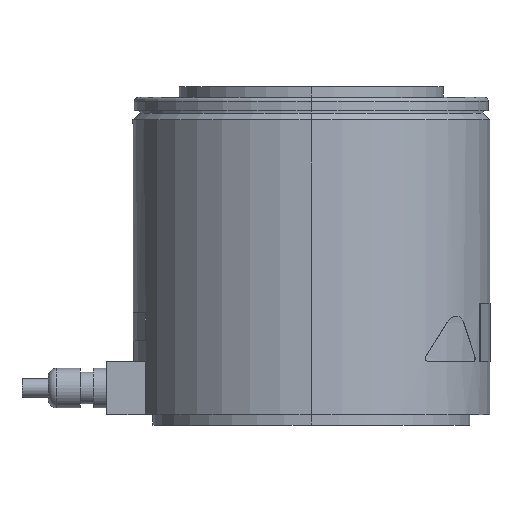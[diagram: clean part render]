
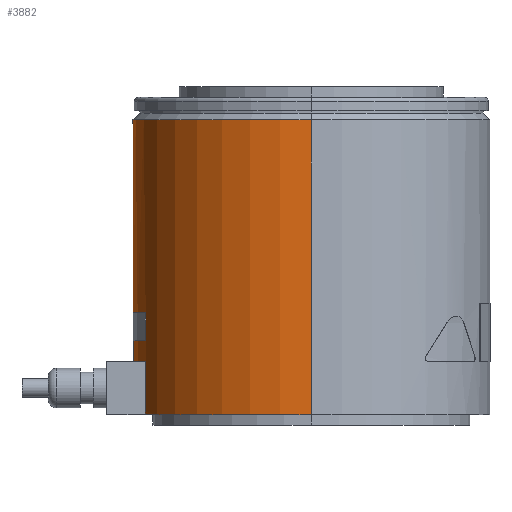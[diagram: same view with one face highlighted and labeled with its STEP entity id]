
A CAD part, left-side view. The second image highlights one B-rep face of the part: STEP entity #3882.
In plain terms, the highlighted cylindrical face has radius 67.5 mm (diameter 135 mm), a partial arc.
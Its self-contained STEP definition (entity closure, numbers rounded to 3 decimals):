
#1055 = VECTOR ( 'NONE', #4395, 1000. ) ;
#1056 = VECTOR ( 'NONE', #4407, 1000. ) ;
#1059 = LINE ( 'NONE', #4388, #1055 ) ;
#1060 = CIRCLE ( 'NONE', #4321, 67.5 ) ;
#1063 = LINE ( 'NONE', #4412, #1066 ) ;
#1066 = VECTOR ( 'NONE', #4413, 1000. ) ;
#1067 = LINE ( 'NONE', #4401, #1056 ) ;
#1068 = CIRCLE ( 'NONE', #4322, 67.5 ) ;
#1069 = LINE ( 'NONE', #4416, #1075 ) ;
#1070 = VECTOR ( 'NONE', #4417, 1000. ) ;
#1071 = CIRCLE ( 'NONE', #4324, 67.5 ) ;
#1072 = LINE ( 'NONE', #4418, #1076 ) ;
#1073 = LINE ( 'NONE', #4409, #1070 ) ;
#1074 = CIRCLE ( 'NONE', #4328, 67.5 ) ;
#1075 = VECTOR ( 'NONE', #4420, 1000. ) ;
#1076 = VECTOR ( 'NONE', #1115, 1000. ) ;
#1079 = CIRCLE ( 'NONE', #4326, 67.5 ) ;
#1115 = DIRECTION ( 'NONE',  ( 0., 0., -1. ) ) ;
#1119 = CARTESIAN_POINT ( 'NONE',  ( 0., 0., 4. ) ) ;
#1120 = DIRECTION ( 'NONE',  ( 0., 0., -1. ) ) ;
#1121 = DIRECTION ( 'NONE',  ( -1., 0., 0. ) ) ;
#1621 = FACE_BOUND ( 'NONE', #4709, .T. ) ;
#1625 = CYLINDRICAL_SURFACE ( 'NONE', #2219, 67.5 ) ;
#1629 = FACE_BOUND ( 'NONE', #4708, .T. ) ;
#1631 = FACE_OUTER_BOUND ( 'NONE', #4792, .T. ) ;
#1960 = CARTESIAN_POINT ( 'NONE',  ( 67.5, 0., 115.5 ) ) ;
#1962 = CARTESIAN_POINT ( 'NONE',  ( -67.5, 0., 115.5 ) ) ;
#2219 = AXIS2_PLACEMENT_3D ( 'NONE', #2475, #2478, #2477 ) ;
#2475 = CARTESIAN_POINT ( 'NONE',  ( 0., 0., 0. ) ) ;
#2477 = DIRECTION ( 'NONE',  ( -1., 0., 0. ) ) ;
#2478 = DIRECTION ( 'NONE',  ( 0., 0., -1. ) ) ;
#2757 = EDGE_CURVE ( 'NONE', #4453, #4451, #1060, .T. ) ;
#2758 = EDGE_CURVE ( 'NONE', #4451, #4452, #1059, .T. ) ;
#2762 = EDGE_CURVE ( 'NONE', #4450, #4449, #1068, .T. ) ;
#2763 = EDGE_CURVE ( 'NONE', #4448, #4449, #1067, .T. ) ;
#2764 = EDGE_CURVE ( 'NONE', #4447, #4448, #1071, .T. ) ;
#2765 = EDGE_CURVE ( 'NONE', #4450, #4447, #1063, .T. ) ;
#2766 = EDGE_CURVE ( 'NONE', #4452, #4454, #1074, .T. ) ;
#2767 = EDGE_CURVE ( 'NONE', #4454, #4453, #1073, .T. ) ;
#2768 = EDGE_CURVE ( 'NONE', #3677, #4456, #1069, .T. ) ;
#2769 = EDGE_CURVE ( 'NONE', #3676, #4455, #1072, .T. ) ;
#2771 = EDGE_CURVE ( 'NONE', #4456, #4455, #1079, .T. ) ;
#2949 = CARTESIAN_POINT ( 'NONE',  ( 0., 0., 115.5 ) ) ;
#2951 = DIRECTION ( 'NONE',  ( 0., 0., -1. ) ) ;
#2952 = DIRECTION ( 'NONE',  ( -1., 0., 0. ) ) ;
#3099 = CARTESIAN_POINT ( 'NONE',  ( 25., 62.7, 24. ) ) ;
#3100 = CARTESIAN_POINT ( 'NONE',  ( -25., 62.7, 5. ) ) ;
#3104 = CARTESIAN_POINT ( 'NONE',  ( -25., 62.7, 24. ) ) ;
#3105 = CARTESIAN_POINT ( 'NONE',  ( 25., 62.7, 5. ) ) ;
#3106 = CARTESIAN_POINT ( 'NONE',  ( -25., 62.7, 32. ) ) ;
#3107 = CARTESIAN_POINT ( 'NONE',  ( -25., 62.7, 42.5 ) ) ;
#3108 = CARTESIAN_POINT ( 'NONE',  ( 25., 62.7, 32. ) ) ;
#3109 = CARTESIAN_POINT ( 'NONE',  ( 25., 62.7, 42.5 ) ) ;
#3110 = CARTESIAN_POINT ( 'NONE',  ( 67.5, 0., 4. ) ) ;
#3111 = CARTESIAN_POINT ( 'NONE',  ( -67.5, 0., 4. ) ) ;
#3676 = VERTEX_POINT ( 'NONE', #1960 ) ;
#3677 = VERTEX_POINT ( 'NONE', #1962 ) ;
#3882 = ADVANCED_FACE ( 'NONE', ( #1621, #1629, #1631 ), #1625, .T. ) ;
#4267 = EDGE_CURVE ( 'NONE', #3677, #3676, #6171, .T. ) ;
#4321 = AXIS2_PLACEMENT_3D ( 'NONE', #4391, #4392, #4393 ) ;
#4322 = AXIS2_PLACEMENT_3D ( 'NONE', #4403, #4404, #4405 ) ;
#4324 = AXIS2_PLACEMENT_3D ( 'NONE', #4408, #4410, #4411 ) ;
#4326 = AXIS2_PLACEMENT_3D ( 'NONE', #1119, #1120, #1121 ) ;
#4328 = AXIS2_PLACEMENT_3D ( 'NONE', #4406, #4414, #4415 ) ;
#4388 = CARTESIAN_POINT ( 'NONE',  ( -25., 62.7, 0. ) ) ;
#4391 = CARTESIAN_POINT ( 'NONE',  ( 0., 0., 32. ) ) ;
#4392 = DIRECTION ( 'NONE',  ( 0., 0., 1. ) ) ;
#4393 = DIRECTION ( 'NONE',  ( -1., 0., 0. ) ) ;
#4395 = DIRECTION ( 'NONE',  ( 0., 0., 1. ) ) ;
#4401 = CARTESIAN_POINT ( 'NONE',  ( -25., 62.7, 0. ) ) ;
#4403 = CARTESIAN_POINT ( 'NONE',  ( 0., 0., 5. ) ) ;
#4404 = DIRECTION ( 'NONE',  ( 0., 0., 1. ) ) ;
#4405 = DIRECTION ( 'NONE',  ( -1., 0., 0. ) ) ;
#4406 = CARTESIAN_POINT ( 'NONE',  ( 0., 0., 42.5 ) ) ;
#4407 = DIRECTION ( 'NONE',  ( 0., 0., -1. ) ) ;
#4408 = CARTESIAN_POINT ( 'NONE',  ( 0., 0., 24. ) ) ;
#4409 = CARTESIAN_POINT ( 'NONE',  ( 25., 62.7, 0. ) ) ;
#4410 = DIRECTION ( 'NONE',  ( 0., 0., 1. ) ) ;
#4411 = DIRECTION ( 'NONE',  ( -1., 0., 0. ) ) ;
#4412 = CARTESIAN_POINT ( 'NONE',  ( 25., 62.7, 0. ) ) ;
#4413 = DIRECTION ( 'NONE',  ( 0., 0., 1. ) ) ;
#4414 = DIRECTION ( 'NONE',  ( 0., 0., -1. ) ) ;
#4415 = DIRECTION ( 'NONE',  ( 1., 0., 0. ) ) ;
#4416 = CARTESIAN_POINT ( 'NONE',  ( -67.5, 0., 0. ) ) ;
#4417 = DIRECTION ( 'NONE',  ( 0., 0., -1. ) ) ;
#4418 = CARTESIAN_POINT ( 'NONE',  ( 67.5, 0., 0. ) ) ;
#4420 = DIRECTION ( 'NONE',  ( 0., 0., -1. ) ) ;
#4447 = VERTEX_POINT ( 'NONE', #3099 ) ;
#4448 = VERTEX_POINT ( 'NONE', #3104 ) ;
#4449 = VERTEX_POINT ( 'NONE', #3100 ) ;
#4450 = VERTEX_POINT ( 'NONE', #3105 ) ;
#4451 = VERTEX_POINT ( 'NONE', #3106 ) ;
#4452 = VERTEX_POINT ( 'NONE', #3107 ) ;
#4453 = VERTEX_POINT ( 'NONE', #3108 ) ;
#4454 = VERTEX_POINT ( 'NONE', #3109 ) ;
#4455 = VERTEX_POINT ( 'NONE', #3110 ) ;
#4456 = VERTEX_POINT ( 'NONE', #3111 ) ;
#4708 = EDGE_LOOP ( 'NONE', ( #6822, #6823, #6824, #6825 ) ) ;
#4709 = EDGE_LOOP ( 'NONE', ( #6818, #6819, #6820, #6821 ) ) ;
#4792 = EDGE_LOOP ( 'NONE', ( #6826, #6827, #6728, #6729 ) ) ;
#5851 = AXIS2_PLACEMENT_3D ( 'NONE', #2949, #2951, #2952 ) ;
#6171 = CIRCLE ( 'NONE', #5851, 67.5 ) ;
#6728 = ORIENTED_EDGE ( 'NONE', *, *, #2771, .F. ) ;
#6729 = ORIENTED_EDGE ( 'NONE', *, *, #2768, .F. ) ;
#6818 = ORIENTED_EDGE ( 'NONE', *, *, #2764, .T. ) ;
#6819 = ORIENTED_EDGE ( 'NONE', *, *, #2763, .T. ) ;
#6820 = ORIENTED_EDGE ( 'NONE', *, *, #2762, .F. ) ;
#6821 = ORIENTED_EDGE ( 'NONE', *, *, #2765, .T. ) ;
#6822 = ORIENTED_EDGE ( 'NONE', *, *, #2758, .F. ) ;
#6823 = ORIENTED_EDGE ( 'NONE', *, *, #2757, .F. ) ;
#6824 = ORIENTED_EDGE ( 'NONE', *, *, #2767, .F. ) ;
#6825 = ORIENTED_EDGE ( 'NONE', *, *, #2766, .F. ) ;
#6826 = ORIENTED_EDGE ( 'NONE', *, *, #4267, .T. ) ;
#6827 = ORIENTED_EDGE ( 'NONE', *, *, #2769, .T. ) ;
